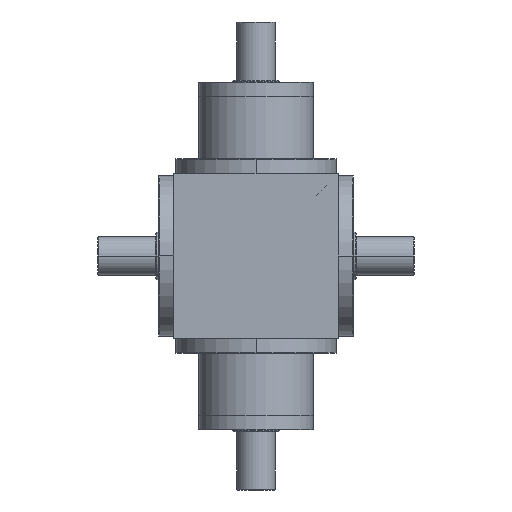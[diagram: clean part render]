
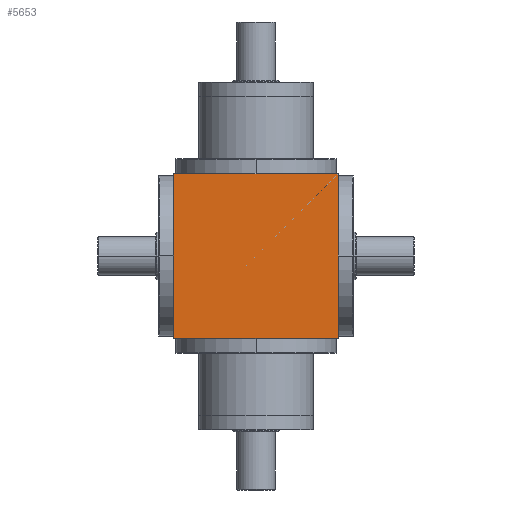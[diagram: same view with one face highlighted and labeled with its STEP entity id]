
A CAD part, front view. The second image highlights one B-rep face of the part: STEP entity #5653.
In plain terms, the highlighted planar face has unit normal (0, -1, 0).
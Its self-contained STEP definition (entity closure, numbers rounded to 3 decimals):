
#2150 = EDGE_CURVE ( 'NONE', #13322, #12823, #22615, .T. ) ;
#2178 = EDGE_CURVE ( 'NONE', #16755, #13322, #9067, .T. ) ;
#3280 = CARTESIAN_POINT ( 'NONE',  ( 85., -85., -84.9 ) ) ;
#3501 = EDGE_LOOP ( 'NONE', ( #8192, #12908, #15031, #21392 ) ) ;
#5653 = ADVANCED_FACE ( 'NONE', ( #15093 ), #18235, .F. ) ;
#6081 = AXIS2_PLACEMENT_3D ( 'NONE', #18488, #20130, #20210 ) ;
#6259 = EDGE_CURVE ( 'NONE', #12823, #10157, #9816, .T. ) ;
#6868 = CARTESIAN_POINT ( 'NONE',  ( 84.9, -85., 84.9 ) ) ;
#7320 = DIRECTION ( 'NONE',  ( 1., 0., 0. ) ) ;
#8192 = ORIENTED_EDGE ( 'NONE', *, *, #2150, .T. ) ;
#9067 = LINE ( 'NONE', #23052, #20507 ) ;
#9816 = LINE ( 'NONE', #11235, #10741 ) ;
#10157 = VERTEX_POINT ( 'NONE', #6868 ) ;
#10741 = VECTOR ( 'NONE', #11830, 1000. ) ;
#10948 = DIRECTION ( 'NONE',  ( 0., 0., -1. ) ) ;
#11235 = CARTESIAN_POINT ( 'NONE',  ( 84.9, -85., 85. ) ) ;
#11830 = DIRECTION ( 'NONE',  ( 0., 0., 1. ) ) ;
#12823 = VERTEX_POINT ( 'NONE', #22675 ) ;
#12853 = DIRECTION ( 'NONE',  ( -1., 0., 0. ) ) ;
#12908 = ORIENTED_EDGE ( 'NONE', *, *, #6259, .T. ) ;
#13322 = VERTEX_POINT ( 'NONE', #16957 ) ;
#13415 = LINE ( 'NONE', #18741, #23214 ) ;
#15031 = ORIENTED_EDGE ( 'NONE', *, *, #24717, .T. ) ;
#15093 = FACE_OUTER_BOUND ( 'NONE', #3501, .T. ) ;
#15893 = VECTOR ( 'NONE', #7320, 1000. ) ;
#16146 = CARTESIAN_POINT ( 'NONE',  ( -84.9, -85., 84.9 ) ) ;
#16755 = VERTEX_POINT ( 'NONE', #16146 ) ;
#16957 = CARTESIAN_POINT ( 'NONE',  ( -84.9, -85., -84.9 ) ) ;
#18235 = PLANE ( 'NONE',  #6081 ) ;
#18488 = CARTESIAN_POINT ( 'NONE',  ( 85., -85., 85. ) ) ;
#18741 = CARTESIAN_POINT ( 'NONE',  ( -85., -85., 84.9 ) ) ;
#20130 = DIRECTION ( 'NONE',  ( 0., 1., 0. ) ) ;
#20210 = DIRECTION ( 'NONE',  ( 0., 0., 1. ) ) ;
#20507 = VECTOR ( 'NONE', #10948, 1000. ) ;
#21392 = ORIENTED_EDGE ( 'NONE', *, *, #2178, .T. ) ;
#22615 = LINE ( 'NONE', #3280, #15893 ) ;
#22675 = CARTESIAN_POINT ( 'NONE',  ( 84.9, -85., -84.9 ) ) ;
#23052 = CARTESIAN_POINT ( 'NONE',  ( -84.9, -85., 85. ) ) ;
#23214 = VECTOR ( 'NONE', #12853, 1000. ) ;
#24717 = EDGE_CURVE ( 'NONE', #10157, #16755, #13415, .T. ) ;
